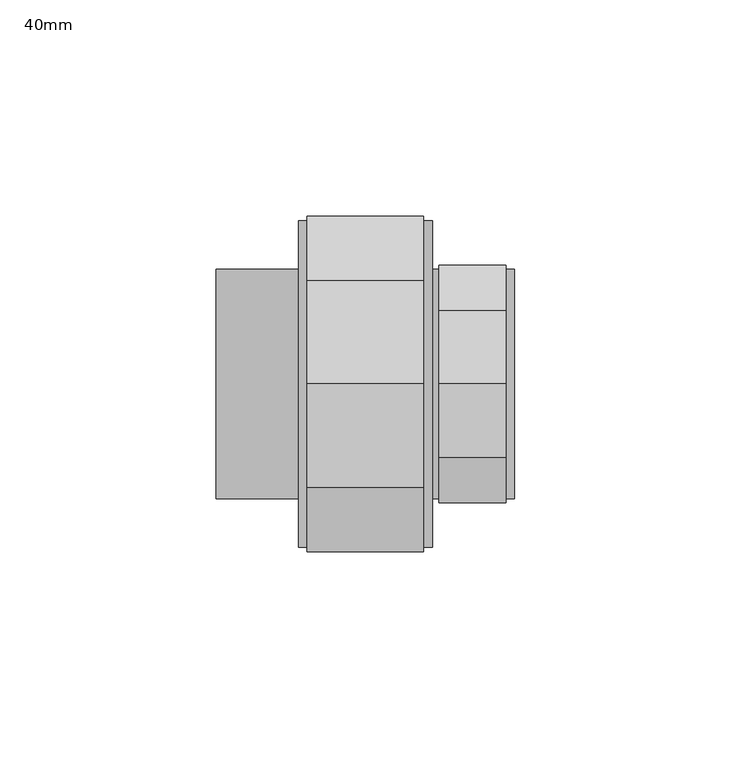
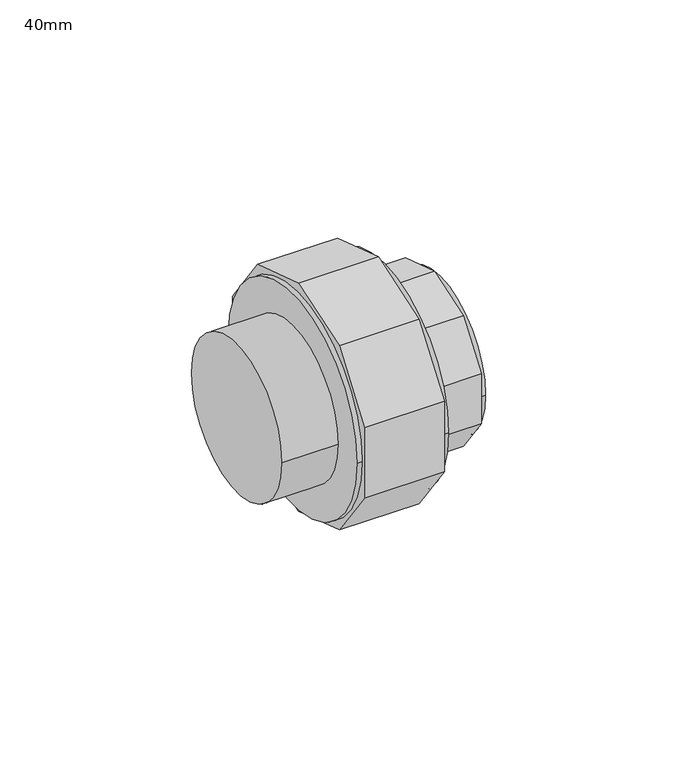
"""IFC4 building model written with IfcOpenShell, lengths in millimetres: pipe fitting geometry, PipeFitting_HTA_CPVC_3PieceUnions_CPVC : 40mm."""

from ifc_helpers import new_model, si_unit, point, frame, origin, origin_2d, place, context, project, spatial, polyline, circle_curve, trimmed, segment, composite_curve, outline, extrude, source, transform, mapped, element, save


def pipe_fitting_40mm_6c416c40(model_context):
    return source(origin(), model_context, "Body", "SweptSolid", [
        extrude(outline(polyline([(16.9959347, 23.3928972), (27.5, 8.9352916), (27.5, -8.9352916), (16.9959347, -23.3928972), (0.0, -28.9152112), (-16.9959347, -23.3928972), (-27.5, -8.9352916), (-27.5, 8.9352916), (-16.9959347, 23.3928972), (0.0, 28.9152112), (16.9959347, 23.3928972)])), frame((17.0, 0.0, 0.0), z_axis=(1.0, 0.0, 0.0), x_axis=(0.0, 1.0, 0.0)), (0.0, 0.0, 1.0), 15.5),
        extrude(outline(composite_curve([segment(trimmed(circle_curve(origin_2d(), 26.5), [point((-26.5, 0.0))], [point((26.5, 0.0))], False, "CARTESIAN"), True, "CONTINUOUS"), segment(trimmed(circle_curve(origin_2d(), 26.5), [point((26.5, 0.0))], [point((-26.5, 0.0))], False, "CARTESIAN"), True, "CONTINUOUS")], self_intersect=False)), frame((7.5, 0.0, 0.0), z_axis=(1.0, 0.0, 0.0), x_axis=(0.0, 1.0, 0.0)), (0.0, 0.0, 1.0), 27.0),
        extrude(outline(composite_curve([segment(trimmed(circle_curve(origin_2d(), 26.5), [point((-26.5, 0.0))], [point((26.5, 0.0))], False, "CARTESIAN"), True, "CONTINUOUS"), segment(trimmed(circle_curve(origin_2d(), 26.5), [point((26.5, 0.0))], [point((-26.5, 0.0))], False, "CARTESIAN"), True, "CONTINUOUS")], self_intersect=False)), frame((-34.5, 0.0, 0.0), z_axis=(1.0, 0.0, 0.0), x_axis=(0.0, 1.0, 0.0)), (0.0, 0.0, 1.0), 19.0),
        extrude(outline(polyline([(23.9488171, 32.9627188), (38.75, 12.5906382), (38.75, -12.5906382), (23.9488171, -32.9627188), (0.0, -40.7441612), (-23.9488171, -32.9627188), (-38.75, -12.5906382), (-38.75, 12.5906382), (-23.9488171, 32.9627188), (0.0, 40.7441612), (23.9488171, 32.9627188)])), frame((-13.5, 0.0, 0.0), z_axis=(1.0, 0.0, 0.0), x_axis=(0.0, 1.0, 0.0)), (0.0, 0.0, 1.0), 27.0),
        extrude(outline(composite_curve([segment(trimmed(circle_curve(origin_2d(), 37.75), [point((-37.75, 0.0))], [point((37.75, 0.0))], False, "CARTESIAN"), True, "CONTINUOUS"), segment(trimmed(circle_curve(origin_2d(), 37.75), [point((37.75, 0.0))], [point((-37.75, 0.0))], False, "CARTESIAN"), True, "CONTINUOUS")], self_intersect=False)), frame((-15.5, 0.0, 0.0), z_axis=(1.0, 0.0, 0.0), x_axis=(0.0, 1.0, 0.0)), (0.0, 0.0, 1.0), 31.0),
    ])


if __name__ == "__main__":
    model = new_model("IFC4")
    model_context = context("Model", 3, world=origin())
    ifc_project = project(units=[si_unit("LENGTHUNIT", "METRE", prefix="MILLI")], contexts=[model_context])
    site = spatial("IfcSite", under=ifc_project)
    building = spatial("IfcBuilding", under=site)
    placement = place(None, origin())
    pipe_fitting_40mm_shape = pipe_fitting_40mm_6c416c40(model_context)
    element("IfcPipeFitting", 1, ObjectType="PipeFitting_HTA_CPVC_3PieceUnions_CPVC : 40mm", at=placement, inside=building, context=model_context, shape_type="MappedRepresentation", body=[
        mapped(pipe_fitting_40mm_shape, transform((0.0, 0.0, 0.0), x_axis=(1.0, 0.0, 0.0), y_axis=(0.0, 1.0, 0.0), z_axis=(0.0, 0.0, 1.0))),
    ])
    save(model, "model.ifc")
